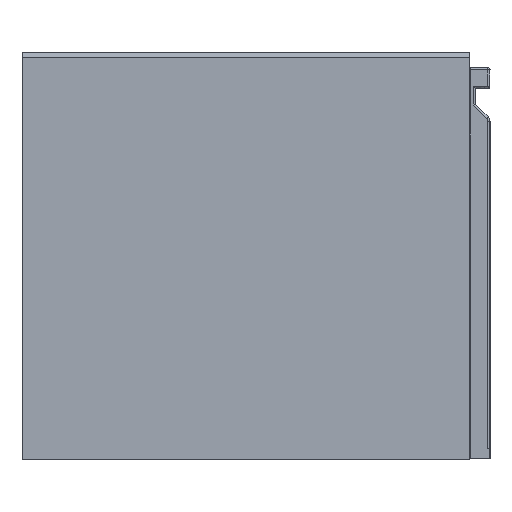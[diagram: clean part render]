
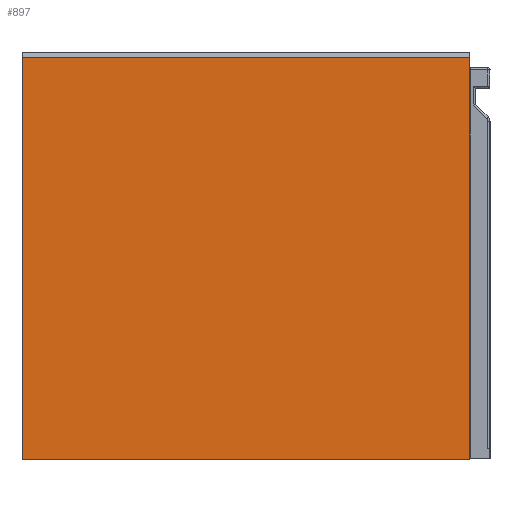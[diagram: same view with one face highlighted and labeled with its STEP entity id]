
A CAD part, left-side view. The second image highlights one B-rep face of the part: STEP entity #897.
In plain terms, the highlighted planar face has unit normal (-1, 0, 0).
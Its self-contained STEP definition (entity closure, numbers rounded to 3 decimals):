
#897=ADVANCED_FACE('',(#1430),#9300,.T.);
#1430=FACE_OUTER_BOUND('',#2029,.T.);
#2029=EDGE_LOOP('',(#4895,#4896,#4897,#4898));
#4895=ORIENTED_EDGE('',*,*,#6352,.F.);
#4896=ORIENTED_EDGE('',*,*,#6353,.T.);
#4897=ORIENTED_EDGE('',*,*,#6354,.T.);
#4898=ORIENTED_EDGE('',*,*,#6355,.T.);
#6352=EDGE_CURVE('',#8770,#8767,#7795,.T.);
#6353=EDGE_CURVE('',#8770,#8771,#7796,.T.);
#6354=EDGE_CURVE('',#8771,#8772,#7797,.T.);
#6355=EDGE_CURVE('',#8772,#8767,#7798,.T.);
#7795=B_SPLINE_CURVE_WITH_KNOTS('',1,(#19551,#19552),.UNSPECIFIED.,.F.,
 .F.,(2,2),(0.,430.),.UNSPECIFIED.);
#7796=B_SPLINE_CURVE_WITH_KNOTS('',1,(#19553,#19554),.UNSPECIFIED.,.F.,
 .F.,(2,2),(-387.,0.),.UNSPECIFIED.);
#7797=B_SPLINE_CURVE_WITH_KNOTS('',1,(#19555,#19556),.UNSPECIFIED.,.F.,
 .F.,(2,2),(-430.,0.),.UNSPECIFIED.);
#7798=B_SPLINE_CURVE_WITH_KNOTS('',1,(#19557,#19558),.UNSPECIFIED.,.F.,
 .F.,(2,2),(0.,387.),.UNSPECIFIED.);
#8767=VERTEX_POINT('',#19535);
#8770=VERTEX_POINT('',#19538);
#8771=VERTEX_POINT('',#19539);
#8772=VERTEX_POINT('',#19540);
#9300=PLANE('',#10069);
#10069=AXIS2_PLACEMENT_3D('',#19529,#10531,$);
#10531=DIRECTION('',(-1.,0.,0.));
#19529=CARTESIAN_POINT('',(-13860.571,-15544.845,-1904.111));
#19535=CARTESIAN_POINT('',(-13860.571,-15501.725,-1478.291));
#19538=CARTESIAN_POINT('',(-13860.571,-15071.725,-1478.291));
#19539=CARTESIAN_POINT('',(-13860.571,-15071.725,-1865.291));
#19540=CARTESIAN_POINT('',(-13860.571,-15501.725,-1865.291));
#19551=CARTESIAN_POINT('',(-13860.571,-15071.725,-1478.291));
#19552=CARTESIAN_POINT('',(-13860.571,-15501.725,-1478.291));
#19553=CARTESIAN_POINT('',(-13860.571,-15071.725,-1478.291));
#19554=CARTESIAN_POINT('',(-13860.571,-15071.725,-1865.291));
#19555=CARTESIAN_POINT('',(-13860.571,-15071.725,-1865.291));
#19556=CARTESIAN_POINT('',(-13860.571,-15501.725,-1865.291));
#19557=CARTESIAN_POINT('',(-13860.571,-15501.725,-1865.291));
#19558=CARTESIAN_POINT('',(-13860.571,-15501.725,-1478.291));
